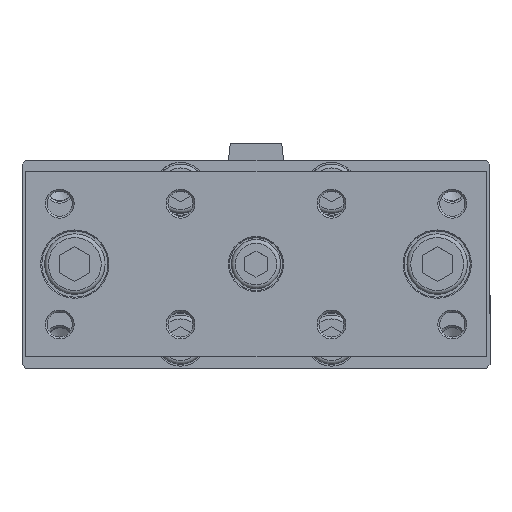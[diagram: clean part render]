
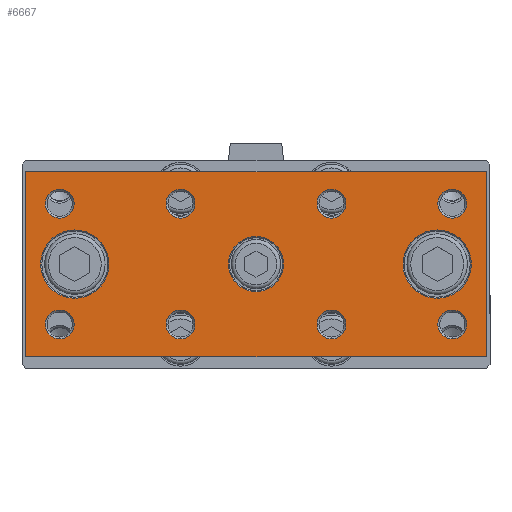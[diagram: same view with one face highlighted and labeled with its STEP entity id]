
A CAD part, top view. The second image highlights one B-rep face of the part: STEP entity #6667.
In plain terms, the highlighted planar face has unit normal (0, 0, 1).
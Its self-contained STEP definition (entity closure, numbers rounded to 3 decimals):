
#6503=CARTESIAN_POINT('',(-38.352,1.555,98.5));
#6504=VERTEX_POINT('',#6503);
#6505=CARTESIAN_POINT('',(-47.402,1.555,98.5));
#6506=DIRECTION('',(0.0,0.0,1.0));
#6507=DIRECTION('',(-1.0,0.0,0.0));
#6508=AXIS2_PLACEMENT_3D('',#6505,#6506,#6507);
#6509=CIRCLE('',#6508,9.05);
#6510=EDGE_CURVE('',#6504,#6504,#6509,.T.);
#6515=CARTESIAN_POINT('',(0.598,5.555,98.5));
#6516=DIRECTION('',(0.0,0.0,1.0));
#6517=DIRECTION('',(1.0,0.0,0.0));
#6518=AXIS2_PLACEMENT_3D('',#6515,#6516,#6517);
#6519=PLANE('',#6518);
#6520=CARTESIAN_POINT('',(61.598,26.055,98.5));
#6521=VERTEX_POINT('',#6520);
#6522=CARTESIAN_POINT('',(61.598,-22.945,98.5));
#6523=VERTEX_POINT('',#6522);
#6524=CARTESIAN_POINT('',(61.598,26.055,98.5));
#6525=DIRECTION('',(0.0,-1.0,0.0));
#6526=VECTOR('',#6525,49.);
#6527=LINE('',#6524,#6526);
#6528=EDGE_CURVE('',#6521,#6523,#6527,.T.);
#6529=ORIENTED_EDGE('',*,*,#6528,.F.);
#6530=CARTESIAN_POINT('',(-60.402,26.055,98.5));
#6531=VERTEX_POINT('',#6530);
#6532=CARTESIAN_POINT('',(-60.402,26.055,98.5));
#6533=DIRECTION('',(1.0,0.0,0.0));
#6534=VECTOR('',#6533,122.0);
#6535=LINE('',#6532,#6534);
#6536=EDGE_CURVE('',#6531,#6521,#6535,.T.);
#6537=ORIENTED_EDGE('',*,*,#6536,.F.);
#6538=CARTESIAN_POINT('',(-60.402,-22.945,98.5));
#6539=VERTEX_POINT('',#6538);
#6540=CARTESIAN_POINT('',(-60.402,-22.945,98.5));
#6541=DIRECTION('',(0.0,1.0,0.0));
#6542=VECTOR('',#6541,49.);
#6543=LINE('',#6540,#6542);
#6544=EDGE_CURVE('',#6539,#6531,#6543,.T.);
#6545=ORIENTED_EDGE('',*,*,#6544,.F.);
#6546=CARTESIAN_POINT('',(61.598,-22.945,98.5));
#6547=DIRECTION('',(-1.0,0.0,0.0));
#6548=VECTOR('',#6547,122.);
#6549=LINE('',#6546,#6548);
#6550=EDGE_CURVE('',#6523,#6539,#6549,.T.);
#6551=ORIENTED_EDGE('',*,*,#6550,.F.);
#6552=EDGE_LOOP('',(#6529,#6537,#6545,#6551));
#6553=FACE_OUTER_BOUND('',#6552,.T.);
#6554=CARTESIAN_POINT('',(7.898,1.555,98.5));
#6555=VERTEX_POINT('',#6554);
#6556=CARTESIAN_POINT('',(0.598,1.555,98.5));
#6557=DIRECTION('',(0.0,0.0,1.0));
#6558=DIRECTION('',(-1.0,0.0,0.0));
#6559=AXIS2_PLACEMENT_3D('',#6556,#6557,#6558);
#6560=CIRCLE('',#6559,7.3);
#6561=EDGE_CURVE('',#6555,#6555,#6560,.T.);
#6562=ORIENTED_EDGE('',*,*,#6561,.F.);
#6563=EDGE_LOOP('',(#6562));
#6564=FACE_BOUND('',#6563,.T.);
#6565=CARTESIAN_POINT('',(24.422,-14.445,98.5));
#6566=VERTEX_POINT('',#6565);
#6567=CARTESIAN_POINT('',(20.598,-14.445,98.5));
#6568=DIRECTION('',(0.0,0.0,1.0));
#6569=DIRECTION('',(-1.0,0.0,0.0));
#6570=AXIS2_PLACEMENT_3D('',#6567,#6568,#6569);
#6571=CIRCLE('',#6570,3.824);
#6572=EDGE_CURVE('',#6566,#6566,#6571,.T.);
#6573=ORIENTED_EDGE('',*,*,#6572,.F.);
#6574=EDGE_LOOP('',(#6573));
#6575=FACE_BOUND('',#6574,.T.);
#6576=CARTESIAN_POINT('',(-47.578,-14.445,98.5));
#6577=VERTEX_POINT('',#6576);
#6578=CARTESIAN_POINT('',(-51.402,-14.445,98.5));
#6579=DIRECTION('',(0.0,0.0,1.0));
#6580=DIRECTION('',(-1.0,0.0,0.0));
#6581=AXIS2_PLACEMENT_3D('',#6578,#6579,#6580);
#6582=CIRCLE('',#6581,3.823);
#6583=EDGE_CURVE('',#6577,#6577,#6582,.T.);
#6584=ORIENTED_EDGE('',*,*,#6583,.F.);
#6585=EDGE_LOOP('',(#6584));
#6586=FACE_BOUND('',#6585,.T.);
#6587=CARTESIAN_POINT('',(56.422,17.555,98.5));
#6588=VERTEX_POINT('',#6587);
#6589=CARTESIAN_POINT('',(52.598,17.555,98.5));
#6590=DIRECTION('',(0.0,0.0,1.0));
#6591=DIRECTION('',(-1.0,0.0,0.0));
#6592=AXIS2_PLACEMENT_3D('',#6589,#6590,#6591);
#6593=CIRCLE('',#6592,3.823);
#6594=EDGE_CURVE('',#6588,#6588,#6593,.T.);
#6595=ORIENTED_EDGE('',*,*,#6594,.F.);
#6596=EDGE_LOOP('',(#6595));
#6597=FACE_BOUND('',#6596,.T.);
#6598=CARTESIAN_POINT('',(56.422,-14.445,98.5));
#6599=VERTEX_POINT('',#6598);
#6600=CARTESIAN_POINT('',(52.598,-14.445,98.5));
#6601=DIRECTION('',(0.0,0.0,1.0));
#6602=DIRECTION('',(-1.0,0.0,0.0));
#6603=AXIS2_PLACEMENT_3D('',#6600,#6601,#6602);
#6604=CIRCLE('',#6603,3.823);
#6605=EDGE_CURVE('',#6599,#6599,#6604,.T.);
#6606=ORIENTED_EDGE('',*,*,#6605,.F.);
#6607=EDGE_LOOP('',(#6606));
#6608=FACE_BOUND('',#6607,.T.);
#6609=CARTESIAN_POINT('',(-47.578,17.555,98.5));
#6610=VERTEX_POINT('',#6609);
#6611=CARTESIAN_POINT('',(-51.402,17.555,98.5));
#6612=DIRECTION('',(0.0,0.0,1.0));
#6613=DIRECTION('',(-1.0,0.0,0.0));
#6614=AXIS2_PLACEMENT_3D('',#6611,#6612,#6613);
#6615=CIRCLE('',#6614,3.823);
#6616=EDGE_CURVE('',#6610,#6610,#6615,.T.);
#6617=ORIENTED_EDGE('',*,*,#6616,.F.);
#6618=EDGE_LOOP('',(#6617));
#6619=FACE_BOUND('',#6618,.T.);
#6620=CARTESIAN_POINT('',(-15.578,17.555,98.5));
#6621=VERTEX_POINT('',#6620);
#6622=CARTESIAN_POINT('',(-19.402,17.555,98.5));
#6623=DIRECTION('',(0.0,0.0,1.0));
#6624=DIRECTION('',(-1.0,0.0,0.0));
#6625=AXIS2_PLACEMENT_3D('',#6622,#6623,#6624);
#6626=CIRCLE('',#6625,3.823);
#6627=EDGE_CURVE('',#6621,#6621,#6626,.T.);
#6628=ORIENTED_EDGE('',*,*,#6627,.F.);
#6629=EDGE_LOOP('',(#6628));
#6630=FACE_BOUND('',#6629,.T.);
#6631=CARTESIAN_POINT('',(24.422,17.555,98.5));
#6632=VERTEX_POINT('',#6631);
#6633=CARTESIAN_POINT('',(20.598,17.555,98.5));
#6634=DIRECTION('',(0.0,0.0,1.0));
#6635=DIRECTION('',(-1.0,0.0,0.0));
#6636=AXIS2_PLACEMENT_3D('',#6633,#6634,#6635);
#6637=CIRCLE('',#6636,3.824);
#6638=EDGE_CURVE('',#6632,#6632,#6637,.T.);
#6639=ORIENTED_EDGE('',*,*,#6638,.F.);
#6640=EDGE_LOOP('',(#6639));
#6641=FACE_BOUND('',#6640,.T.);
#6642=CARTESIAN_POINT('',(-15.578,-14.445,98.5));
#6643=VERTEX_POINT('',#6642);
#6644=CARTESIAN_POINT('',(-19.402,-14.445,98.5));
#6645=DIRECTION('',(0.0,0.0,1.0));
#6646=DIRECTION('',(-1.0,0.0,0.0));
#6647=AXIS2_PLACEMENT_3D('',#6644,#6645,#6646);
#6648=CIRCLE('',#6647,3.823);
#6649=EDGE_CURVE('',#6643,#6643,#6648,.T.);
#6650=ORIENTED_EDGE('',*,*,#6649,.F.);
#6651=EDGE_LOOP('',(#6650));
#6652=FACE_BOUND('',#6651,.T.);
#6653=CARTESIAN_POINT('',(57.648,1.555,98.5));
#6654=VERTEX_POINT('',#6653);
#6655=CARTESIAN_POINT('',(48.598,1.555,98.5));
#6656=DIRECTION('',(0.0,0.0,1.0));
#6657=DIRECTION('',(-1.0,0.0,0.0));
#6658=AXIS2_PLACEMENT_3D('',#6655,#6656,#6657);
#6659=CIRCLE('',#6658,9.05);
#6660=EDGE_CURVE('',#6654,#6654,#6659,.T.);
#6661=ORIENTED_EDGE('',*,*,#6660,.F.);
#6662=EDGE_LOOP('',(#6661));
#6663=FACE_BOUND('',#6662,.T.);
#6664=ORIENTED_EDGE('',*,*,#6510,.F.);
#6665=EDGE_LOOP('',(#6664));
#6666=FACE_BOUND('',#6665,.T.);
#6667=ADVANCED_FACE('',(#6553,#6564,#6575,#6586,#6597,#6608,#6619,#6630,#6641,#6652,#6663,#6666),#6519,.T.);
